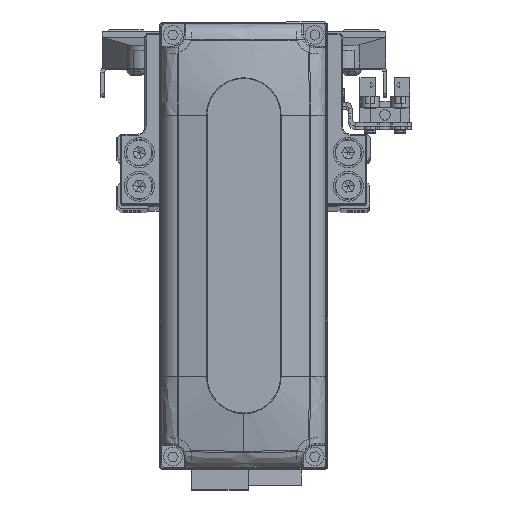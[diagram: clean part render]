
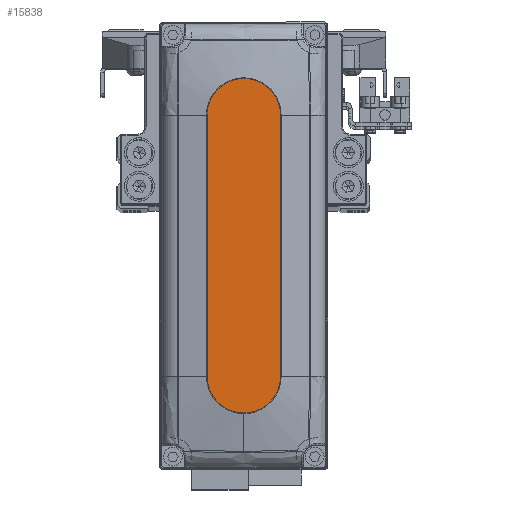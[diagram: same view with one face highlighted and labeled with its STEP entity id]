
A CAD part, top view. The second image highlights one B-rep face of the part: STEP entity #15838.
In plain terms, the highlighted planar face has unit normal (0, 0, 1).
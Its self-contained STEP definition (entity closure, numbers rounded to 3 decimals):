
#385 = CARTESIAN_POINT ( 'NONE',  ( -35., 10., 28. ) ) ;
#472 = AXIS2_PLACEMENT_3D ( 'NONE', #34722, #3440, #17378 ) ;
#1218 = EDGE_CURVE ( 'NONE', #24214, #16419, #24274, .T. ) ;
#2454 = VECTOR ( 'NONE', #31269, 1000. ) ;
#2884 = EDGE_CURVE ( 'NONE', #43909, #19370, #41405, .T. ) ;
#3335 = DIRECTION ( 'NONE',  ( 0., 0., 1. ) ) ;
#3368 = VERTEX_POINT ( 'NONE', #7375 ) ;
#3409 = LINE ( 'NONE', #17348, #2454 ) ;
#3440 = DIRECTION ( 'NONE',  ( 0., 0., 1. ) ) ;
#4565 = AXIS2_PLACEMENT_3D ( 'NONE', #10694, #24638, #38530 ) ;
#6166 = EDGE_CURVE ( 'NONE', #3368, #43909, #31652, .T. ) ;
#6561 = EDGE_LOOP ( 'NONE', ( #30375, #19333, #13017, #25521, #11861 ) ) ;
#6856 = FACE_OUTER_BOUND ( 'NONE', #6561, .T. ) ;
#7375 = CARTESIAN_POINT ( 'NONE',  ( 35., 10., 28. ) ) ;
#10694 = CARTESIAN_POINT ( 'NONE',  ( 35., 0., 28. ) ) ;
#11861 = ORIENTED_EDGE ( 'NONE', *, *, #35503, .T. ) ;
#12189 = CARTESIAN_POINT ( 'NONE',  ( -35., 10., 28. ) ) ;
#13017 = ORIENTED_EDGE ( 'NONE', *, *, #28027, .T. ) ;
#14309 = DIRECTION ( 'NONE',  ( -1., 0., 0. ) ) ;
#15343 = CARTESIAN_POINT ( 'NONE',  ( 35., 0., 28. ) ) ;
#15382 = AXIS2_PLACEMENT_3D ( 'NONE', #15343, #29265, #43172 ) ;
#15838 = ADVANCED_FACE ( 'NONE', ( #6856 ), #20806, .T. ) ;
#16419 = VERTEX_POINT ( 'NONE', #28728 ) ;
#17276 = DIRECTION ( 'NONE',  ( 1., 0., 0. ) ) ;
#17348 = CARTESIAN_POINT ( 'NONE',  ( -35., -10., 28. ) ) ;
#17378 = DIRECTION ( 'NONE',  ( 1., 0., 0. ) ) ;
#18838 = CARTESIAN_POINT ( 'NONE',  ( 35., -10., 28. ) ) ;
#19333 = ORIENTED_EDGE ( 'NONE', *, *, #2884, .T. ) ;
#19370 = VERTEX_POINT ( 'NONE', #19607 ) ;
#19607 = CARTESIAN_POINT ( 'NONE',  ( -35., -10., 28. ) ) ;
#20806 = PLANE ( 'NONE',  #472 ) ;
#21735 = AXIS2_PLACEMENT_3D ( 'NONE', #34616, #3335, #17276 ) ;
#24214 = VERTEX_POINT ( 'NONE', #18838 ) ;
#24274 = CIRCLE ( 'NONE', #4565, 10. ) ;
#24638 = DIRECTION ( 'NONE',  ( 0., 0., 1. ) ) ;
#25521 = ORIENTED_EDGE ( 'NONE', *, *, #1218, .T. ) ;
#28027 = EDGE_CURVE ( 'NONE', #19370, #24214, #3409, .T. ) ;
#28728 = CARTESIAN_POINT ( 'NONE',  ( 45., 0., 28. ) ) ;
#29265 = DIRECTION ( 'NONE',  ( 0., 0., 1. ) ) ;
#29796 = VECTOR ( 'NONE', #14309, 1000. ) ;
#30375 = ORIENTED_EDGE ( 'NONE', *, *, #6166, .T. ) ;
#31269 = DIRECTION ( 'NONE',  ( 1., 0., 0. ) ) ;
#31652 = LINE ( 'NONE', #385, #29796 ) ;
#34616 = CARTESIAN_POINT ( 'NONE',  ( -35., 0., 28. ) ) ;
#34722 = CARTESIAN_POINT ( 'NONE',  ( 0., 0., 28. ) ) ;
#35069 = CIRCLE ( 'NONE', #15382, 10. ) ;
#35503 = EDGE_CURVE ( 'NONE', #16419, #3368, #35069, .T. ) ;
#38530 = DIRECTION ( 'NONE',  ( 1., 0., 0. ) ) ;
#41405 = CIRCLE ( 'NONE', #21735, 10. ) ;
#43172 = DIRECTION ( 'NONE',  ( 1., 0., 0. ) ) ;
#43909 = VERTEX_POINT ( 'NONE', #12189 ) ;
